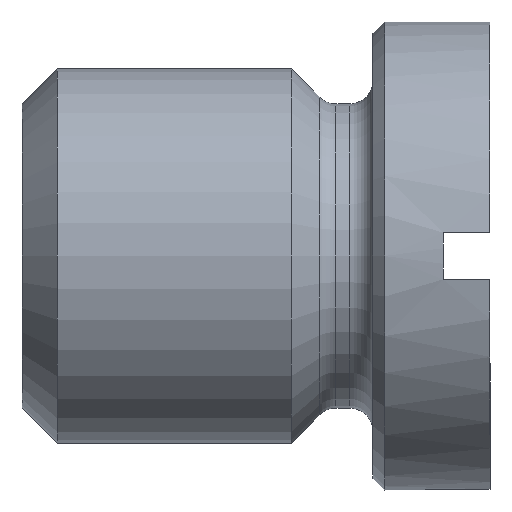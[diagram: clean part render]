
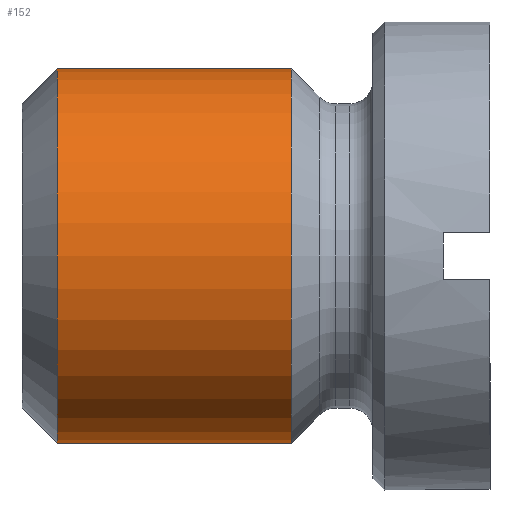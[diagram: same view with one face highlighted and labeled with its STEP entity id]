
A CAD part, front view. The second image highlights one B-rep face of the part: STEP entity #152.
In plain terms, the highlighted cylindrical face has radius 8 mm (diameter 16 mm), a full revolution.
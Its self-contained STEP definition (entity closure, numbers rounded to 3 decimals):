
#152=ADVANCED_FACE('',(#277,#279),#281,.T.);
#277=FACE_OUTER_BOUND('',#278,.T.);
#278=EDGE_LOOP('',(#348));
#279=FACE_OUTER_BOUND('',#280,.T.);
#280=EDGE_LOOP('',(#349));
#281=CYLINDRICAL_SURFACE('',#282,8.);
#282=AXIS2_PLACEMENT_3D('',#283,#284,#285);
#283=CARTESIAN_POINT('',(-8.5,0.,0.));
#284=DIRECTION('',(-1.,0.,0.));
#285=DIRECTION('',(0.,0.,1.));
#348=ORIENTED_EDGE('',*,*,#374,.T.);
#349=ORIENTED_EDGE('',*,*,#375,.F.);
#374=EDGE_CURVE('',#411,#411,#412,.T.);
#375=EDGE_CURVE('',#413,#413,#414,.T.);
#411=VERTEX_POINT('',#500);
#412=CIRCLE('',#501,8.);
#413=VERTEX_POINT('',#505);
#414=CIRCLE('',#506,8.);
#500=CARTESIAN_POINT('',(-8.5,0.,8.));
#501=AXIS2_PLACEMENT_3D('',#502,#503,#504);
#502=CARTESIAN_POINT('',(-8.5,0.,0.));
#503=DIRECTION('',(-1.,0.,0.));
#504=DIRECTION('',(0.,0.,1.));
#505=CARTESIAN_POINT('',(-18.5,0.,8.));
#506=AXIS2_PLACEMENT_3D('',#507,#508,#509);
#507=CARTESIAN_POINT('',(-18.5,0.,0.));
#508=DIRECTION('',(-1.,0.,0.));
#509=DIRECTION('',(0.,0.,1.));
